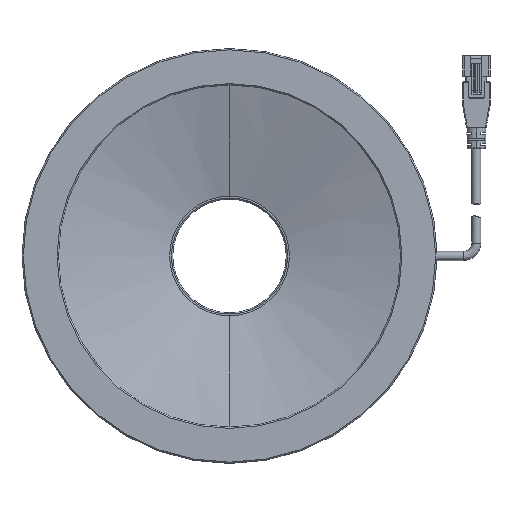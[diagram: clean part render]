
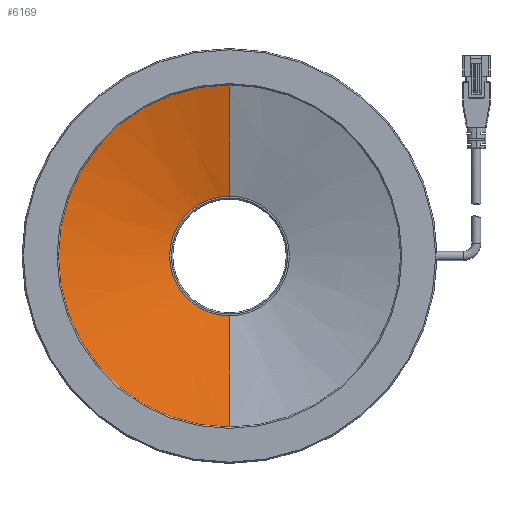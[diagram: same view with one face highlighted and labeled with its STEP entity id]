
A CAD part, front view. The second image highlights one B-rep face of the part: STEP entity #6169.
In plain terms, the highlighted conical face has half-angle 74.364 degrees and reference radius 65.846 mm.
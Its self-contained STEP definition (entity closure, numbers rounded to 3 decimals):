
#48 = AXIS2_PLACEMENT_3D ( 'NONE', #8329, #8368, #1980 ) ;
#132 = FACE_OUTER_BOUND ( 'NONE', #4510, .T. ) ;
#813 = CONICAL_SURFACE ( 'NONE', #48, 65.846, 1.298 ) ;
#963 = EDGE_CURVE ( 'NONE', #5322, #7019, #7157, .T. ) ;
#1407 = EDGE_CURVE ( 'NONE', #4160, #7019, #6156, .T. ) ;
#1949 = DIRECTION ( 'NONE',  ( 0., -0.27, 0.963 ) ) ;
#1980 = DIRECTION ( 'NONE',  ( 0., 0., -1. ) ) ;
#2351 = CARTESIAN_POINT ( 'NONE',  ( 0., -5.521, -23.046 ) ) ;
#2441 = DIRECTION ( 'NONE',  ( 0., 0., -1. ) ) ;
#3102 = VECTOR ( 'NONE', #3162, 1000. ) ;
#3162 = DIRECTION ( 'NONE',  ( 0., -0.27, -0.963 ) ) ;
#3198 = EDGE_CURVE ( 'NONE', #5978, #5322, #3903, .T. ) ;
#3441 = CARTESIAN_POINT ( 'NONE',  ( 0., -17.5, 65.846 ) ) ;
#3616 = AXIS2_PLACEMENT_3D ( 'NONE', #8833, #4448, #2441 ) ;
#3903 = CIRCLE ( 'NONE', #3616, 23.046 ) ;
#3906 = CARTESIAN_POINT ( 'NONE',  ( 0., -17.5, -65.846 ) ) ;
#4032 = VECTOR ( 'NONE', #1949, 1000. ) ;
#4160 = VERTEX_POINT ( 'NONE', #7808 ) ;
#4364 = AXIS2_PLACEMENT_3D ( 'NONE', #6069, #8889, #8947 ) ;
#4448 = DIRECTION ( 'NONE',  ( 0., 1., 0. ) ) ;
#4510 = EDGE_LOOP ( 'NONE', ( #5366, #8143, #8237, #5433 ) ) ;
#4705 = CARTESIAN_POINT ( 'NONE',  ( 0., -5.521, 23.046 ) ) ;
#5322 = VERTEX_POINT ( 'NONE', #4705 ) ;
#5366 = ORIENTED_EDGE ( 'NONE', *, *, #3198, .T. ) ;
#5433 = ORIENTED_EDGE ( 'NONE', *, *, #8349, .F. ) ;
#5978 = VERTEX_POINT ( 'NONE', #2351 ) ;
#6069 = CARTESIAN_POINT ( 'NONE',  ( 0., -17.5, 0. ) ) ;
#6156 = CIRCLE ( 'NONE', #4364, 65.846 ) ;
#6169 = ADVANCED_FACE ( 'NONE', ( #132 ), #813, .F. ) ;
#6446 = LINE ( 'NONE', #3906, #3102 ) ;
#7019 = VERTEX_POINT ( 'NONE', #7526 ) ;
#7157 = LINE ( 'NONE', #3441, #4032 ) ;
#7526 = CARTESIAN_POINT ( 'NONE',  ( 0., -17.5, 65.846 ) ) ;
#7808 = CARTESIAN_POINT ( 'NONE',  ( 0., -17.5, -65.846 ) ) ;
#8143 = ORIENTED_EDGE ( 'NONE', *, *, #963, .T. ) ;
#8237 = ORIENTED_EDGE ( 'NONE', *, *, #1407, .F. ) ;
#8329 = CARTESIAN_POINT ( 'NONE',  ( 0., -17.5, 0. ) ) ;
#8349 = EDGE_CURVE ( 'NONE', #5978, #4160, #6446, .T. ) ;
#8368 = DIRECTION ( 'NONE',  ( 0., -1., 0. ) ) ;
#8833 = CARTESIAN_POINT ( 'NONE',  ( 0., -5.521, 0. ) ) ;
#8889 = DIRECTION ( 'NONE',  ( 0., 1., 0. ) ) ;
#8947 = DIRECTION ( 'NONE',  ( -1., 0., 0. ) ) ;
